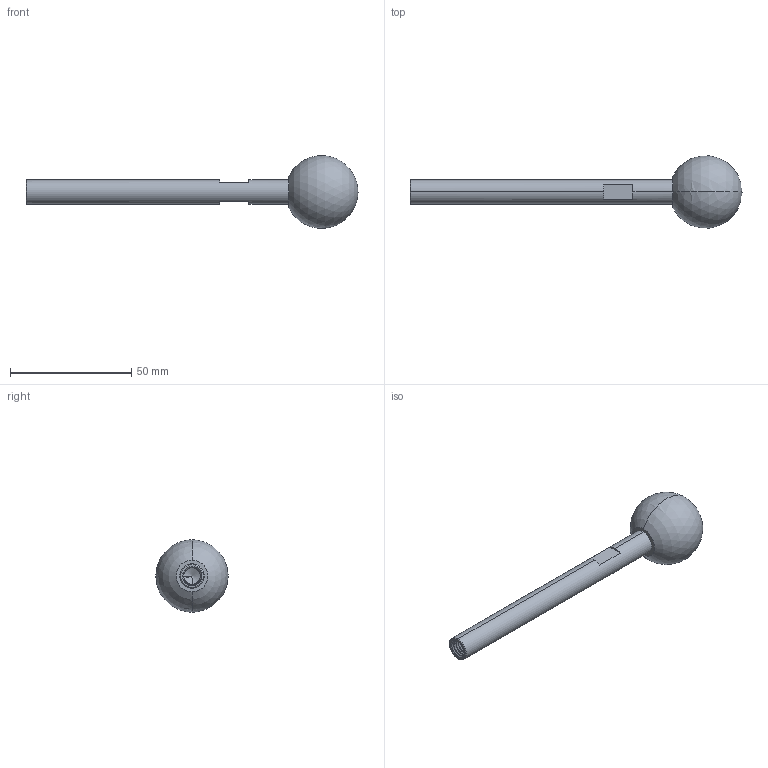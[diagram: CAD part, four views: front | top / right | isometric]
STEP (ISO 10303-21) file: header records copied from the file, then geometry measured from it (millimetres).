
FILE_DESCRIPTION((''),'2;1');
FILE_NAME('EMB-M01-00_ASM','2023-11-20T17:35:55',('13553236702'),(''),'CREO PARAMETRIC BY PTC INC, 2022164','CREO PARAMETRIC BY PTC INC, 2022164','');
FILE_SCHEMA(('CONFIG_CONTROL_DESIGN'));
Length unit declared in the file: millimetre
Products named in the file (3): EMB-M01-0006; EMB-M01-0007; EMB-M01-00_ASM
Assembly tree (2 placements, depth 2):
  EMB-M01-00_ASM
    EMB-M01-0006
    EMB-M01-0007
Bounding box: 137 x 29.84 x 29.95 mm (x, y, z)
Volume: 21852.8 mm3; surface area: 7777.8 mm2
Topology: 2 solids, 3 shells, 81 faces, 210 edges, 131 vertices
Faces by surface type: cylinder 42, bspline 17, plane 11, cone 9, sphere 2
Entity records: 5679 total; most frequent: CARTESIAN_POINT 3842, ORIENTED_EDGE 404, DIRECTION 292, EDGE_CURVE 204, VERTEX_POINT 131, AXIS2_PLACEMENT_3D 110, B_SPLINE_CURVE_WITH_KNOTS 93, EDGE_LOOP 85
